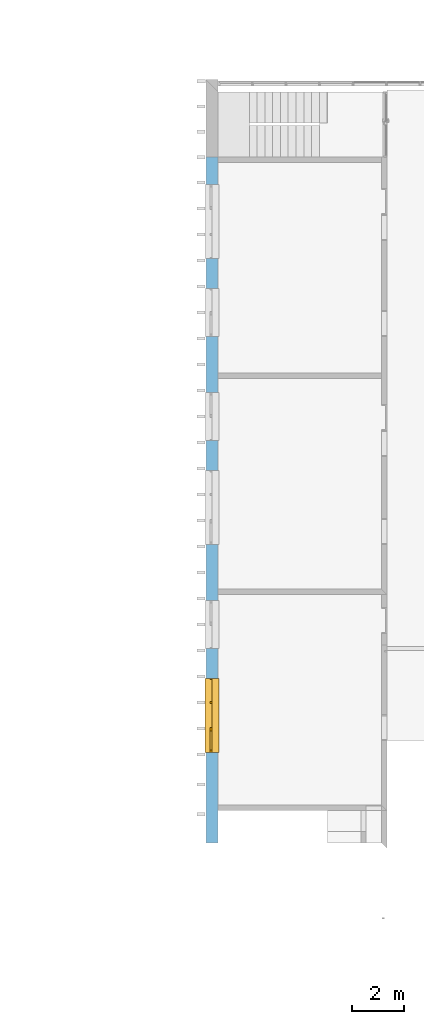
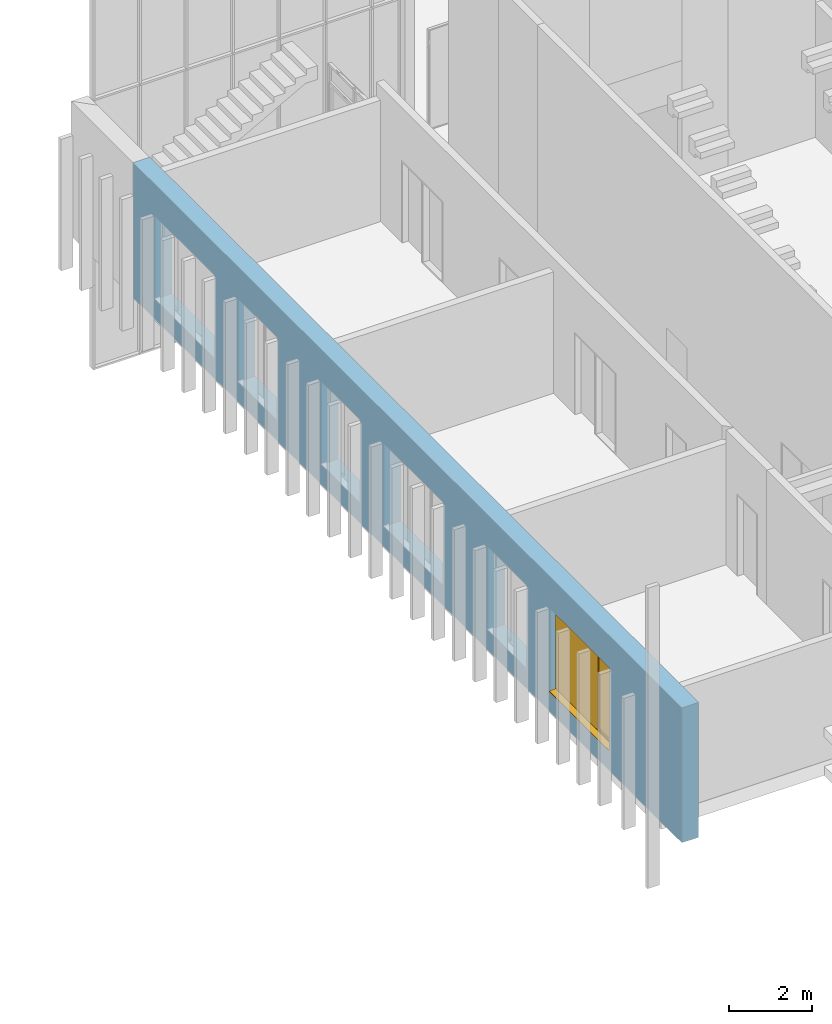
# One storey, part 35 of 62: 1 window, 6 openings, plus 1 element that does not belong to this part.
"""IFC2X3 building model written with IfcOpenShell, lengths in millimetres."""

from ifc_helpers import new_model, entity, si_unit, converted_unit, derived_unit, money_unit, direction, frame, origin_with_axes, origin_2d_with_axis, place, context, subcontext, project, spatial, polyline, rectangle, outline, extrude, open_shell, faceted_brep, surface_model, material, layer, layer_set, layer_usage, type_object, element, fill, save


model = new_model("IFC2X3")

# Units and contexts
model_context = context("Model", 3, precision=0.01, world=origin_with_axes(), true_north=direction((0.0, 1.0)))
body_context = subcontext(model_context, "Body", "Model", "MODEL_VIEW")
ifc_project = project(units=[si_unit("LENGTHUNIT", "METRE", prefix="MILLI"), si_unit("AREAUNIT", "SQUARE_METRE"), si_unit("VOLUMEUNIT", "CUBIC_METRE"), converted_unit("PLANEANGLEUNIT", "DEGREE", entity("IfcPlaneAngleMeasure", 0.0174532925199), si_unit("PLANEANGLEUNIT", "RADIAN"), dimensions=[0, 0, 0, 0, 0, 0, 0]), si_unit("SOLIDANGLEUNIT", "STERADIAN"), money_unit("EUR"), converted_unit("TIMEUNIT", "Year", entity("IfcTimeMeasure", 31556926.0), si_unit("TIMEUNIT", "SECOND"), dimensions=[0, 0, 1, 0, 0, 0, 0]), si_unit("MASSUNIT", "GRAM", prefix="KILO"), si_unit("THERMODYNAMICTEMPERATUREUNIT", "DEGREE_CELSIUS"), si_unit("LUMINOUSINTENSITYUNIT", "LUMEN"), si_unit("ENERGYUNIT", "JOULE", prefix="MEGA"), derived_unit("THERMALCONDUCTANCEUNIT", [(si_unit("POWERUNIT", "WATT"), 1), (si_unit("LENGTHUNIT", "METRE"), -1), (si_unit("THERMODYNAMICTEMPERATUREUNIT", "KELVIN"), -1)]), derived_unit("SPECIFICHEATCAPACITYUNIT", [(si_unit("ENERGYUNIT", "JOULE"), 1), (si_unit("MASSUNIT", "GRAM", prefix="KILO"), -1), (si_unit("THERMODYNAMICTEMPERATUREUNIT", "KELVIN"), -1)]), derived_unit("MASSDENSITYUNIT", [(si_unit("MASSUNIT", "GRAM", prefix="KILO"), 1), (si_unit("VOLUMEUNIT", "CUBIC_METRE"), -1)])], contexts=[model_context])

# Site, building, storey
site_placement = place(None, origin_with_axes())
site = spatial("IfcSite", under=ifc_project, at=site_placement, Name="Puškini 31, Narva", CompositionType="ELEMENT")
building_placement = place(site_placement, origin_with_axes())
building = spatial("IfcBuilding", under=site, at=building_placement, Name="Narva Riigigümnaasium", CompositionType="ELEMENT")
storey_placement = place(building_placement, frame((0.0, 0.0, 660.0), z_axis=(0.0, 0.0, 1.0), x_axis=(1.0, 0.0, 0.0)))
storey = spatial("IfcBuildingStorey", under=building, at=storey_placement, Name="2.korrus +0.66", CompositionType="ELEMENT", Elevation=660.0)

# Wall, openings, window
ifc_material_1 = material(Name="fassaadiplaat")
ifc_layer_1 = layer(ifc_material_1, 8.0, ventilated="UNKNOWN")
ifc_material_2 = material(Name="Salto-roovitus")
ifc_layer_2 = layer(ifc_material_2, 50.0, ventilated="UNKNOWN")
ifc_material_3 = material(Name="Salto-PIR soojustus")
ifc_layer_3 = layer(ifc_material_3, 50.0, ventilated="UNKNOWN")
ifc_layer_4 = layer(ifc_material_3, 150.0, ventilated="UNKNOWN")
ifc_material_4 = material(Name="Betoon element")
ifc_layer_5 = layer(ifc_material_4, 200.0, ventilated="UNKNOWN")
ifc_material_5 = material(Name="Salto-siseviimistlus-seinad")
ifc_layer_6 = layer(ifc_material_5, 10.0, ventilated="UNKNOWN")
ifc_layer_set = layer_set([ifc_layer_1, ifc_layer_2, ifc_layer_3, ifc_layer_4, ifc_layer_5, ifc_layer_6], Name="G-VS-01")
ifc_layer_usage = layer_usage(ifc_layer_set, "AXIS2", "NEGATIVE", 458.0)
wall_type = type_object("IfcWallType", Name="G-VS-01 468", PredefinedType="NOTDEFINED")
wall_placement = place(storey_placement, frame((28400.0401775, 194899.999976, 0.0), z_axis=(0.0, 0.0, 1.0), x_axis=(0.0, 1.0, 0.0)))
wall = element("IfcWallStandardCase", 1, at=wall_placement, inside=storey, type_object=wall_type, material=ifc_layer_usage, Name="Välissein", context=body_context, shape_type="SweptSolid", body=[
    extrude(outline(polyline([(2.37781989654e-05, -10.0), (26380.0000226, -10.0), (26380.0000226, 458.0), (2.37781989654e-05, 458.0), (2.37781989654e-05, -10.0)])), origin_with_axes(), (0.0, 0.0, 1.0), 3960.0),
])
opening_1_placement = place(wall_placement, frame((23900.0000267, 0.0, 600.0), z_axis=(0.0, 0.0, 1.0), x_axis=(1.0, 0.0, 0.0)))
element("IfcOpeningElement", 2, at=opening_1_placement, cuts=wall, Name="G-A-38", context=body_context, shape_type="SweptSolid", body=[
    extrude(rectangle(XDim=2849.99999873, YDim=2430.0, at=origin_2d_with_axis()), frame((0.0, 308.0, 1215.0), z_axis=(0.0, 1.0, 0.0), x_axis=(-1.0, 0.0, 0.0)), (0.0, 0.0, -1.0), 786.0),
    extrude(rectangle(XDim=2849.99999873, YDim=2430.0, at=origin_2d_with_axis()), frame((0.0, 308.0, 1215.0), z_axis=(0.0, -1.0, 0.0), x_axis=(-1.0, 0.0, 0.0)), (0.0, 0.0, -1.0), 618.0),
])
opening_2_placement = place(wall_placement, frame((16400.00003, 0.0, 600.0), z_axis=(0.0, 0.0, 1.0), x_axis=(1.0, 0.0, 0.0)))
element("IfcOpeningElement", 3, at=opening_2_placement, cuts=wall, Name="G-A-36", context=body_context, shape_type="SweptSolid", body=[
    extrude(rectangle(XDim=1849.99999918, YDim=2430.0, at=origin_2d_with_axis()), frame((0.0, 308.0, 1215.0), z_axis=(0.0, 1.0, 0.0), x_axis=(-1.0, 0.0, 0.0)), (0.0, 0.0, -1.0), 786.0),
    extrude(rectangle(XDim=1849.99999918, YDim=2430.0, at=origin_2d_with_axis()), frame((0.0, 308.0, 1215.0), z_axis=(0.0, -1.0, 0.0), x_axis=(-1.0, 0.0, 0.0)), (0.0, 0.0, -1.0), 618.0),
])
opening_3_placement = place(wall_placement, frame((8400.005406, 0.0, 600.0), z_axis=(0.0, 0.0, 1.0), x_axis=(1.0, 0.0, 0.0)))
element("IfcOpeningElement", 4, at=opening_3_placement, cuts=wall, Name="G-A-36", context=body_context, shape_type="SweptSolid", body=[
    extrude(rectangle(XDim=1850.0, YDim=2430.0, at=origin_2d_with_axis()), frame((0.0, 308.0, 1215.0), z_axis=(0.0, 1.0, 0.0), x_axis=(-1.0, 0.0, 0.0)), (0.0, 0.0, -1.0), 786.0),
    extrude(rectangle(XDim=1850.0, YDim=2430.0, at=origin_2d_with_axis()), frame((0.0, 308.0, 1215.0), z_axis=(0.0, -1.0, 0.0), x_axis=(-1.0, 0.0, 0.0)), (0.0, 0.0, -1.0), 618.0),
])
opening_4_placement = place(wall_placement, frame((20400.0000282, 0.0, 600.0), z_axis=(0.0, 0.0, 1.0), x_axis=(1.0, 0.0, 0.0)))
element("IfcOpeningElement", 5, at=opening_4_placement, cuts=wall, Name="G-A-36", context=body_context, shape_type="SweptSolid", body=[
    extrude(rectangle(XDim=1849.99999918, YDim=2430.0, at=origin_2d_with_axis()), frame((0.0, 308.0, 1215.0), z_axis=(0.0, -1.0, 0.0), x_axis=(1.0, 0.0, 0.0)), (0.0, 0.0, 1.0), 786.0),
    extrude(rectangle(XDim=1849.99999918, YDim=2430.0, at=origin_2d_with_axis()), frame((0.0, 308.0, 1215.0), z_axis=(0.0, 1.0, 0.0), x_axis=(1.0, 0.0, 0.0)), (0.0, 0.0, 1.0), 618.0),
])
opening_5_placement = place(wall_placement, frame((12900.0000316, 0.0, 600.0), z_axis=(0.0, 0.0, 1.0), x_axis=(1.0, 0.0, 0.0)))
element("IfcOpeningElement", 6, at=opening_5_placement, cuts=wall, Name="G-A-38", context=body_context, shape_type="SweptSolid", body=[
    extrude(rectangle(XDim=2849.99999873, YDim=2430.0, at=origin_2d_with_axis()), frame((0.0, 308.0, 1215.0), z_axis=(0.0, -1.0, 0.0), x_axis=(1.0, 0.0, 0.0)), (0.0, 0.0, 1.0), 786.0),
    extrude(rectangle(XDim=2849.99999873, YDim=2430.0, at=origin_2d_with_axis()), frame((0.0, 308.0, 1215.0), z_axis=(0.0, 1.0, 0.0), x_axis=(1.0, 0.0, 0.0)), (0.0, 0.0, 1.0), 618.0),
])
opening_6_placement = place(wall_placement, frame((4900.00003512, 0.0, 600.0), z_axis=(0.0, 0.0, 1.0), x_axis=(1.0, 0.0, 0.0)))
opening_6 = element("IfcOpeningElement", 7, at=opening_6_placement, cuts=wall, Name="G-A-38", context=body_context, shape_type="SweptSolid", body=[
    extrude(rectangle(XDim=2849.99999873, YDim=2430.0, at=origin_2d_with_axis()), frame((0.0, 308.0, 1215.0), z_axis=(0.0, -1.0, 0.0), x_axis=(1.0, 0.0, 0.0)), (0.0, 0.0, 1.0), 786.0),
    extrude(rectangle(XDim=2849.99999873, YDim=2430.0, at=origin_2d_with_axis()), frame((0.0, 308.0, 1215.0), z_axis=(0.0, 1.0, 0.0), x_axis=(1.0, 0.0, 0.0)), (0.0, 0.0, 1.0), 618.0),
])
window_style = type_object("IfcWindowStyle", Name="Horizontal Multi-Sash Window 23", ConstructionType="NOTDEFINED", OperationType="TRIPLE_PANEL_VERTICAL", ParameterTakesPrecedence=False, Sizeable=False)
window_placement = place(opening_6_placement, frame((1424.99999937, 0.0, 0.0), z_axis=(0.0, 0.0, 1.0), x_axis=(-1.0, 0.0, 0.0)))
window = element("IfcWindow", 8, at=window_placement, inside=storey, type_object=window_style, Name="G-A-38", ObjectType="WINDOW", OverallHeight=2430.0, OverallWidth=2850.0, context=body_context, shape_type="SurfaceModel", body=[
    surface_model("IfcShellBasedSurfaceModel", [(2849.99999873, -309.0, 50.0), (0.0, -309.0, 50.0), (0.0, -309.0, 40.0), (2849.99999873, -309.0, 40.0), (0.0, -488.0, 28.0), (2849.99999873, -488.0, 28.0), (0.0, -488.0, 8.0), (2849.99999873, -488.0, 8.0), (0.0, -478.0, 18.0), (2849.99999873, -478.0, 18.0)], [open_shell([[[0, 1, 2, 3]], [[3, 2, 4, 5]], [[5, 4, 6, 7]], [[7, 6, 8, 9]]])]),
    faceted_brep([(0.0, -233.0, 0.0), (0.0, -233.0, 25.0), (0.0, 10.0, 25.0), (0.0, 10.0, 0.0), (2849.99999873, -233.0, 0.0), (2849.99999873, -233.0, 25.0), (2849.99999873, 10.0, 25.0), (2849.99999873, 40.0, 25.0), (0.0, 40.0, 25.0), (0.0, 40.0, 0.0), (2849.99999873, 40.0, 0.0), (2849.99999873, 10.0, 0.0)], [[[0, 1, 2, 3]], [[4, 5, 1, 0]], [[1, 5, 6, 7, 8, 2]], [[3, 2, 8, 9]], [[0, 3, 9, 10, 11, 4]], [[11, 6, 5, 4]], [[10, 7, 6, 11]], [[9, 8, 7, 10]]]),
    faceted_brep([(2809.99999873, -233.0, 2380.0), (2809.99999873, -303.0, 2380.0), (2799.99999873, -303.0, 2380.0), (2799.99999873, -308.0, 2380.0), (2849.99999873, -308.0, 2380.0), (2849.99999873, -233.0, 2380.0), (2809.99999873, -233.0, 50.0), (2809.99999873, -303.0, 50.0), (2799.99999873, -303.0, 50.0), (2799.99999873, -308.0, 50.0), (2849.99999873, -308.0, 50.0), (2849.99999873, -233.0, 50.0)], [[[0, 1, 2, 3, 4, 5]], [[1, 0, 6, 7]], [[8, 2, 1, 7]], [[2, 8, 9, 3]], [[4, 3, 9, 10]], [[5, 4, 10, 11]], [[6, 0, 5, 11]], [[7, 6, 11, 10, 9, 8]]]),
    faceted_brep([(2809.99999873, -233.0, 2380.0), (2809.99999873, -233.0, 2390.0), (1952.48985197, -233.0, 2390.0), (1952.48985197, -233.0, 2380.0), (1887.48985197, -233.0, 2380.0), (962.489852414, -233.0, 2380.0), (887.489852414, -233.0, 2380.0), (50.0, -233.0, 2380.0), (0.0, -233.0, 2380.0), (0.0, -233.0, 2430.0), (2849.99999873, -233.0, 2430.0), (2849.99999873, -233.0, 2380.0), (2809.99999873, -303.0, 2380.0), (2809.99999873, -303.0, 2390.0), (1952.48985197, -303.0, 2390.0), (1952.48985197, -303.0, 2380.0), (1962.48985197, -303.0, 2380.0), (1962.48985197, -308.0, 2380.0), (1887.48985197, -308.0, 2380.0), (962.489852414, -308.0, 2380.0), (887.489852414, -308.0, 2380.0), (50.0, -308.0, 2380.0), (0.0, -308.0, 2380.0), (0.0, -308.0, 2430.0), (2849.99999873, -308.0, 2430.0), (2849.99999873, -308.0, 2380.0), (2799.99999873, -308.0, 2380.0), (2799.99999873, -303.0, 2380.0)], [[[0, 1, 2, 3, 4, 5, 6, 7, 8, 9, 10, 11]], [[1, 0, 12, 13]], [[2, 1, 13, 14]], [[3, 2, 14, 15]], [[15, 16, 17, 18, 4, 3]], [[4, 18, 19, 5]], [[5, 19, 20, 6]], [[6, 20, 21, 7]], [[7, 21, 22, 8]], [[8, 22, 23, 9]], [[9, 23, 24, 10]], [[10, 24, 25, 11]], [[12, 0, 11, 25, 26, 27]], [[16, 15, 14, 13, 12, 27]], [[16, 27, 26, 17]], [[22, 21, 20, 19, 18, 17, 26, 25, 24, 23]]]),
    faceted_brep([(1962.48985197, -303.0, 50.0), (1952.48985197, -303.0, 50.0), (1952.48985197, -233.0, 50.0), (1887.48985197, -233.0, 50.0), (1887.48985197, -308.0, 50.0), (1962.48985197, -308.0, 50.0), (2799.99999873, -303.0, 50.0), (2809.99999873, -303.0, 50.0), (2809.99999873, -303.0, 40.0), (1952.48985197, -303.0, 40.0), (1952.48985197, -233.0, 40.0), (2809.99999873, -233.0, 40.0), (2809.99999873, -233.0, 50.0), (2849.99999873, -233.0, 50.0), (2849.99999873, -233.0, 0.0), (0.0, -233.0, 0.0), (0.0, -233.0, 50.0), (50.0, -233.0, 50.0), (887.489852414, -233.0, 50.0), (962.489852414, -233.0, 50.0), (962.489852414, -308.0, 50.0), (887.489852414, -308.0, 50.0), (50.0, -308.0, 50.0), (0.0, -308.0, 50.0), (0.0, -308.0, 0.0), (2849.99999873, -308.0, 0.0), (2849.99999873, -308.0, 50.0), (2799.99999873, -308.0, 50.0)], [[[0, 1, 2, 3, 4, 5]], [[1, 0, 6, 7, 8, 9]], [[10, 2, 1, 9]], [[11, 12, 13, 14, 15, 16, 17, 18, 19, 3, 2, 10]], [[19, 20, 4, 3]], [[20, 21, 22, 23, 24, 25, 26, 27, 5, 4]], [[6, 0, 5, 27]], [[7, 6, 27, 26, 13, 12]], [[7, 12, 11, 8]], [[11, 10, 9, 8]], [[13, 26, 25, 14]], [[14, 25, 24, 15]], [[15, 24, 23, 16]], [[16, 23, 22, 17]], [[17, 22, 21, 18]], [[18, 21, 20, 19]]]),
    faceted_brep([(1962.48985197, -303.0, 2380.0), (1952.48985197, -303.0, 2380.0), (1952.48985197, -233.0, 2380.0), (1887.48985197, -233.0, 2380.0), (1887.48985197, -308.0, 2380.0), (1962.48985197, -308.0, 2380.0), (1962.48985197, -303.0, 50.0), (1952.48985197, -303.0, 50.0), (1952.48985197, -233.0, 50.0), (1887.48985197, -233.0, 50.0), (1887.48985197, -308.0, 50.0), (1962.48985197, -308.0, 50.0)], [[[0, 1, 2, 3, 4, 5]], [[1, 0, 6, 7]], [[8, 2, 1, 7]], [[2, 8, 9, 3]], [[9, 10, 4, 3]], [[4, 10, 11, 5]], [[6, 0, 5, 11]], [[7, 6, 11, 10, 9, 8]]]),
    faceted_brep([(50.0, -308.0, 50.0), (0.0, -308.0, 50.0), (0.0, -233.0, 50.0), (50.0, -233.0, 50.0), (50.0, -308.0, 2380.0), (0.0, -308.0, 2380.0), (0.0, -233.0, 2380.0), (50.0, -233.0, 2380.0)], [[[0, 1, 2, 3]], [[0, 4, 5, 1]], [[1, 5, 6, 2]], [[3, 2, 6, 7]], [[4, 0, 3, 7]], [[5, 4, 7, 6]]]),
    faceted_brep([(887.489852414, -308.0, 50.0), (887.489852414, -308.0, 2380.0), (887.489852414, -233.0, 2380.0), (887.489852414, -233.0, 50.0), (962.489852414, -308.0, 50.0), (962.489852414, -308.0, 2380.0), (962.489852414, -233.0, 2380.0), (962.489852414, -233.0, 50.0)], [[[0, 1, 2, 3]], [[0, 4, 5, 1]], [[1, 5, 6, 2]], [[3, 2, 6, 7]], [[4, 0, 3, 7]], [[5, 4, 7, 6]]]),
    faceted_brep([(2749.99999873, -303.0, 2330.0), (2809.99999873, -303.0, 2330.0), (2809.99999873, -218.0, 2330.0), (2749.99999873, -218.0, 2330.0), (2749.99999873, -303.0, 100.0), (2809.99999873, -303.0, 100.0), (2809.99999873, -218.0, 100.0), (2749.99999873, -218.0, 100.0)], [[[0, 1, 2, 3]], [[0, 4, 5, 1]], [[1, 5, 6, 2]], [[3, 2, 6, 7]], [[4, 0, 3, 7]], [[5, 4, 7, 6]]]),
    faceted_brep([(2012.48985197, -303.0, 100.0), (1952.48985197, -303.0, 100.0), (1952.48985197, -218.0, 100.0), (2012.48985197, -218.0, 100.0), (2012.48985197, -303.0, 2330.0), (1952.48985197, -303.0, 2330.0), (1952.48985197, -218.0, 2330.0), (2012.48985197, -218.0, 2330.0)], [[[0, 1, 2, 3]], [[0, 4, 5, 1]], [[1, 5, 6, 2]], [[3, 2, 6, 7]], [[4, 0, 3, 7]], [[5, 4, 7, 6]]]),
    faceted_brep([(1952.48985197, -303.0, 40.0), (1952.48985197, -303.0, 100.0), (1952.48985197, -218.0, 100.0), (1952.48985197, -218.0, 40.0), (2809.99999873, -303.0, 40.0), (2809.99999873, -303.0, 100.0), (2749.99999873, -303.0, 100.0), (2012.48985197, -303.0, 100.0), (2012.48985197, -218.0, 100.0), (2749.99999873, -218.0, 100.0), (2809.99999873, -218.0, 100.0), (2809.99999873, -218.0, 40.0)], [[[0, 1, 2, 3]], [[0, 4, 5, 6, 7, 1]], [[1, 7, 8, 2]], [[3, 2, 8, 9, 10, 11]], [[4, 0, 3, 11]], [[5, 4, 11, 10]], [[6, 5, 10, 9]], [[7, 6, 9, 8]]]),
    faceted_brep([(2809.99999873, -303.0, 2390.0), (2809.99999873, -303.0, 2330.0), (2809.99999873, -218.0, 2330.0), (2809.99999873, -218.0, 2390.0), (1952.48985197, -303.0, 2390.0), (1952.48985197, -303.0, 2330.0), (2012.48985197, -303.0, 2330.0), (2749.99999873, -303.0, 2330.0), (2749.99999873, -218.0, 2330.0), (2012.48985197, -218.0, 2330.0), (1952.48985197, -218.0, 2330.0), (1952.48985197, -218.0, 2390.0)], [[[0, 1, 2, 3]], [[0, 4, 5, 6, 7, 1]], [[1, 7, 8, 2]], [[3, 2, 8, 9, 10, 11]], [[4, 0, 3, 11]], [[5, 4, 11, 10]], [[6, 5, 10, 9]], [[7, 6, 9, 8]]]),
    surface_model("IfcShellBasedSurfaceModel", [(2749.99999873, -270.5, 100.0), (2749.99999873, -270.5, 2330.0), (2012.48985197, -270.5, 2330.0), (2012.48985197, -270.5, 100.0)], [open_shell([[[0, 1, 2, 3]]])]),
    surface_model("IfcShellBasedSurfaceModel", [(2749.99999873, -250.5, 100.0), (2012.48985197, -250.5, 100.0), (2012.48985197, -250.5, 2330.0), (2749.99999873, -250.5, 2330.0)], [open_shell([[[0, 1, 2, 3]]])]),
    surface_model("IfcShellBasedSurfaceModel", [(1887.48985197, -313.0, 50.0), (1887.48985197, -313.0, 2380.0), (962.489852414, -313.0, 2380.0), (962.489852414, -313.0, 50.0)], [open_shell([[[0, 1, 2, 3]]])]),
    surface_model("IfcShellBasedSurfaceModel", [(1887.48985197, -293.0, 50.0), (962.489852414, -293.0, 50.0), (962.489852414, -293.0, 2380.0), (1887.48985197, -293.0, 2380.0)], [open_shell([[[0, 1, 2, 3]]])]),
    surface_model("IfcShellBasedSurfaceModel", [(887.489852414, -313.0, 50.0), (887.489852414, -313.0, 2380.0), (50.0, -313.0, 2380.0), (50.0, -313.0, 50.0)], [open_shell([[[0, 1, 2, 3]]])]),
    surface_model("IfcShellBasedSurfaceModel", [(887.489852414, -293.0, 50.0), (50.0, -293.0, 50.0), (50.0, -293.0, 2380.0), (887.489852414, -293.0, 2380.0)], [open_shell([[[0, 1, 2, 3]]])]),
])
fill(opening_6, window)

save(model, "model.ifc")
